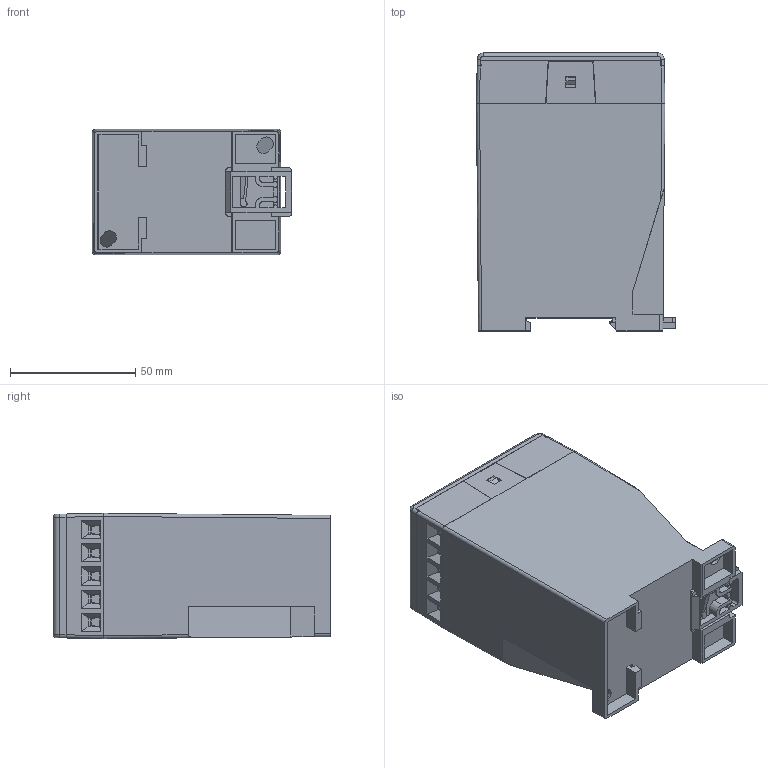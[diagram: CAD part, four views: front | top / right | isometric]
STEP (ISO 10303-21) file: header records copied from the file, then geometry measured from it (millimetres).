
FILE_DESCRIPTION (( 'STEP AP203' ), '1' );
FILE_NAME ('RT-120.STEP', '2021-10-08T10:37:39', ( '' ), ( '' ), 'SwSTEP 2.0', 'SolidWorks 2021', '' );
FILE_SCHEMA (( 'CONFIG_CONTROL_DESIGN' ));
Length unit declared in the file: millimetre
Products named in the file (8): RT-122-P-3; RT-122-P-1; RT-122-P-2; A-75_metal; RT-115_rail_lock; A-75_vida; A-75; RT-120
Assembly tree (34 placements, depth 2):
  RT-120
    RT-122-P-1
    RT-122-P-2
    RT-122-P-3
    A-75  x10
    A-75_vida  x10
    A-75_metal  x10
    RT-115_rail_lock
Bounding box: 79.45 x 110.9 x 50 mm (x, y, z)
Volume: 70041.3 mm3; surface area: 97051.2 mm2
Topology: 34 solids, 34 shells, 4943 faces, 12543 edges, 7667 vertices
Faces by surface type: plane 3851, cylinder 918, cone 68, torus 60, bspline 46
Entity records: 42325 total; most frequent: CARTESIAN_POINT 9457, ORIENTED_EDGE 6816, DIRECTION 5979, EDGE_CURVE 3408, VECTOR 2955, LINE 2955, VERTEX_POINT 2195, AXIS2_PLACEMENT_3D 1512
